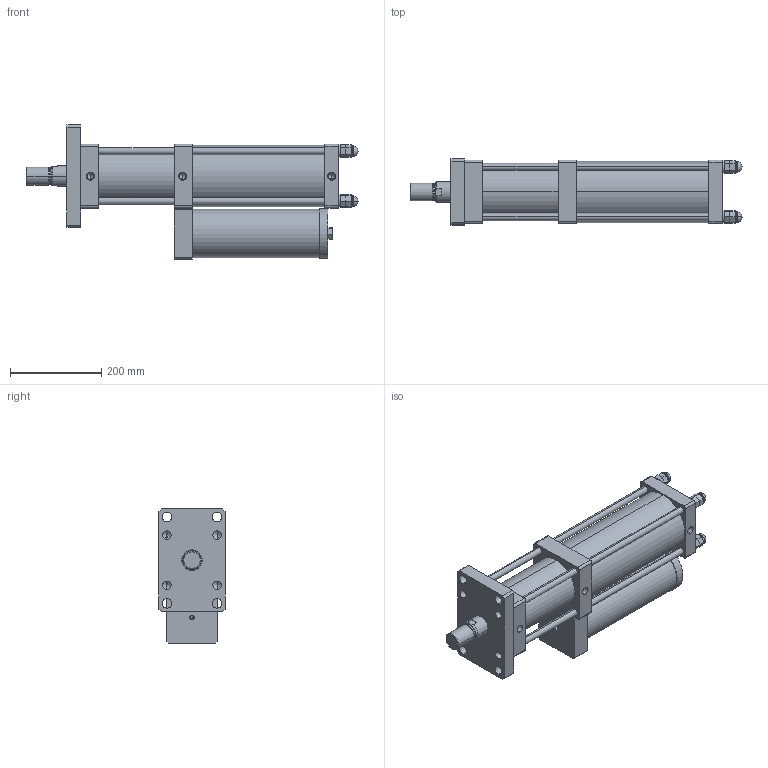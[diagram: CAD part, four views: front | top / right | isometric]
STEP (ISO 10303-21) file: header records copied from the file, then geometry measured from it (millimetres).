
FILE_DESCRIPTION (( 'STEP AP203' ), '1' );
FILE_NAME ('MPT-100-100-15-13T.STEP', '2016-03-28T10:19:09', ( 'WIN' ), ( '' ), 'SwSTEP 2.0', 'SolidWorks 2014', '' );
FILE_SCHEMA (( 'CONFIG_CONTROL_DESIGN' ));
Length unit declared in the file: millimetre
Products named in the file (1): MPT-100-100-15-13T
Bounding box: 729 x 145 x 294.5 mm (x, y, z)
Volume: 12555075.2 mm3; surface area: 770818.7 mm2
Topology: 13 solids, 13 shells, 400 faces, 980 edges, 555 vertices
Faces by surface type: plane 188, cylinder 80, torus 48, bspline 48, cone 36
Entity records: 12751 total; most frequent: CARTESIAN_POINT 3688, DIRECTION 1936, ORIENTED_EDGE 1812, EDGE_CURVE 906, AXIS2_PLACEMENT_3D 727, VERTEX_POINT 555, LINE 482, VECTOR 482
